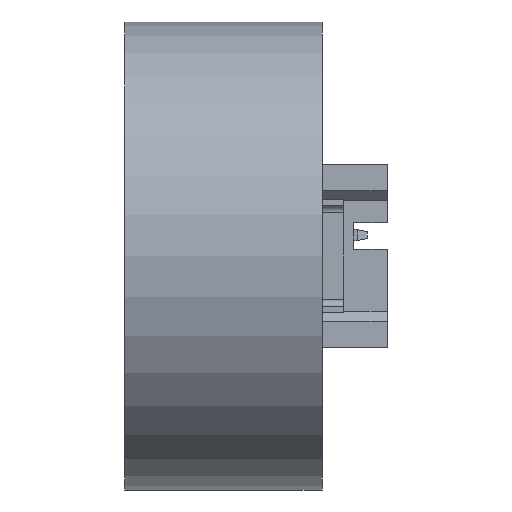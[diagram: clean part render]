
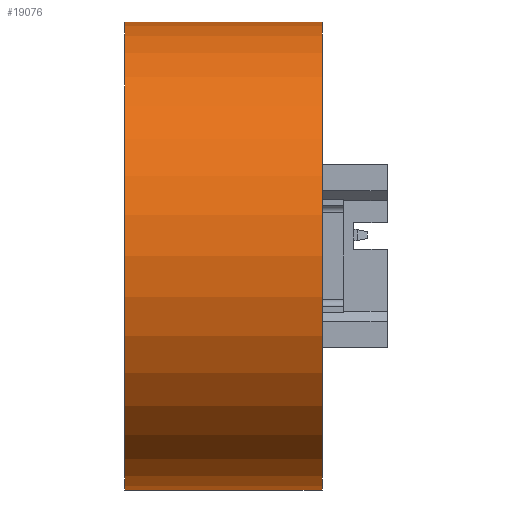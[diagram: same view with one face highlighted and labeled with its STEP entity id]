
A CAD part, left-side view. The second image highlights one B-rep face of the part: STEP entity #19076.
In plain terms, the highlighted cylindrical face has radius 7 mm (diameter 14 mm), a partial arc.
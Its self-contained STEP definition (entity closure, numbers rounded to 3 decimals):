
#935=CIRCLE('',#20243,7.);
#936=CIRCLE('',#20244,7.);
#1024=CYLINDRICAL_SURFACE('',#20242,7.);
#2645=FACE_OUTER_BOUND('',#3719,.T.);
#3719=EDGE_LOOP('',(#17387,#17388,#17389,#17390));
#5724=LINE('',#31797,#7783);
#5790=LINE('',#32051,#7849);
#7783=VECTOR('',#24108,10.);
#7849=VECTOR('',#24390,10.);
#9561=VERTEX_POINT('',#31791);
#9563=VERTEX_POINT('',#31795);
#9642=VERTEX_POINT('',#32047);
#9643=VERTEX_POINT('',#32049);
#12170=EDGE_CURVE('',#9561,#9563,#5724,.T.);
#12286=EDGE_CURVE('',#9561,#9642,#935,.T.);
#12287=EDGE_CURVE('',#9643,#9563,#936,.T.);
#12288=EDGE_CURVE('',#9642,#9643,#5790,.T.);
#17387=ORIENTED_EDGE('',*,*,#12286,.F.);
#17388=ORIENTED_EDGE('',*,*,#12170,.T.);
#17389=ORIENTED_EDGE('',*,*,#12287,.F.);
#17390=ORIENTED_EDGE('',*,*,#12288,.F.);
#19076=ADVANCED_FACE('',(#2645),#1024,.T.);
#20242=AXIS2_PLACEMENT_3D('',#32046,#24384,#24385);
#20243=AXIS2_PLACEMENT_3D('',#32048,#24386,#24387);
#20244=AXIS2_PLACEMENT_3D('',#32050,#24388,#24389);
#24108=DIRECTION('',(0.,1.,0.));
#24384=DIRECTION('center_axis',(0.,1.,0.));
#24385=DIRECTION('ref_axis',(0.,0.,1.));
#24386=DIRECTION('center_axis',(0.,-1.,0.));
#24387=DIRECTION('ref_axis',(1.,0.,0.));
#24388=DIRECTION('center_axis',(0.,1.,0.));
#24389=DIRECTION('ref_axis',(0.,0.,1.));
#24390=DIRECTION('',(0.,1.,0.));
#31791=CARTESIAN_POINT('',(-6.7,0.,7.));
#31795=CARTESIAN_POINT('',(-6.7,5.9,7.));
#31797=CARTESIAN_POINT('',(-6.7,0.,7.));
#32046=CARTESIAN_POINT('Origin',(-6.7,0.,0.));
#32047=CARTESIAN_POINT('',(-6.7,0.,-7.));
#32048=CARTESIAN_POINT('Origin',(-6.7,0.,0.));
#32049=CARTESIAN_POINT('',(-6.7,5.9,-7.));
#32050=CARTESIAN_POINT('Origin',(-6.7,5.9,0.));
#32051=CARTESIAN_POINT('',(-6.7,0.,-7.));
